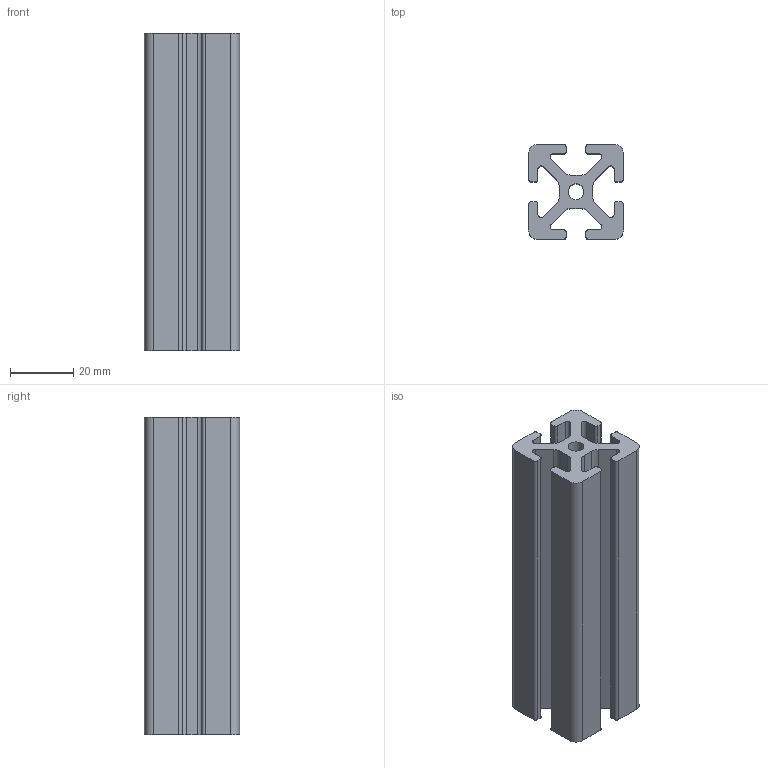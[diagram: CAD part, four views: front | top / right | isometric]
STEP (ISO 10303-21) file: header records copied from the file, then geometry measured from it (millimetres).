
FILE_DESCRIPTION(('FreeCAD Model'),'2;1');
FILE_NAME('Open CASCADE Shape Model','2021-05-05T10:12:58',('Author'),( ''),'Open CASCADE STEP processor 7.5','FreeCAD','Unknown');
FILE_SCHEMA(('AUTOMOTIVE_DESIGN { 1 0 10303 214 1 1 1 1 }'));
Length unit declared in the file: millimetre
Products named in the file (1): IR 30X30S IR41901
Bounding box: 30 x 30 x 100 mm (x, y, z)
Volume: 47138.4 mm3; surface area: 26285.3 mm2
Topology: 1 solids, 1 shells, 78 faces, 228 edges, 152 vertices
Faces by surface type: cylinder 40, plane 38
Entity records: 5710 total; most frequent: CARTESIAN_POINT 1131, DIRECTION 886, LINE 524, VECTOR 524, ORIENTED_EDGE 456, PCURVE 456, DEFINITIONAL_REPRESENTATION 456, EDGE_CURVE 228
